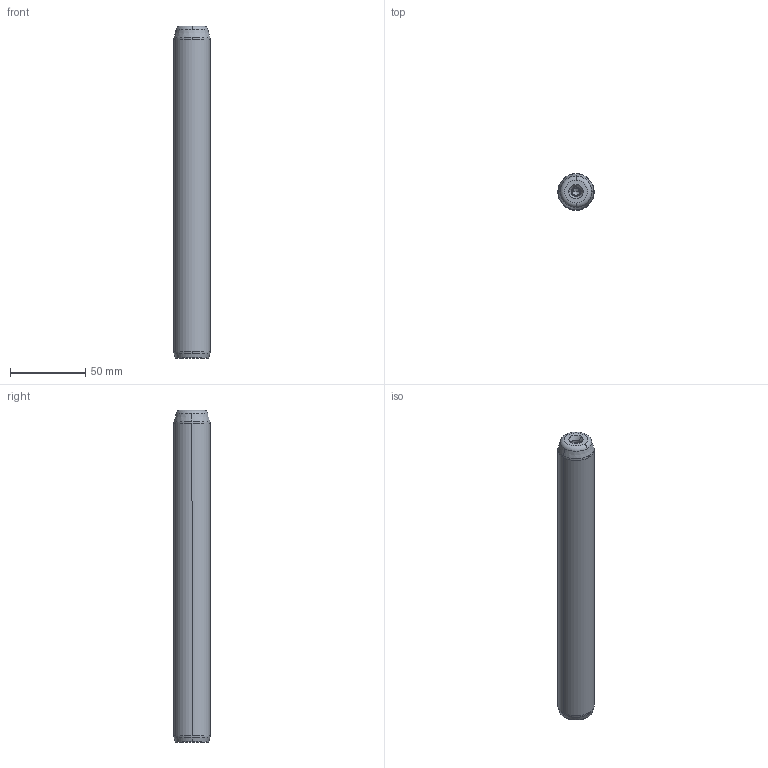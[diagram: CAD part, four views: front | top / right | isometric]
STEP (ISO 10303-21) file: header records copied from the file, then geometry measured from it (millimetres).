
FILE_DESCRIPTION((''),'2;1');
FILE_NAME('P10_024_220.stp','2008-12-23T14:36:13',(''),(''),'Mechanical Desktop 2009','Mechanical Desktop 2009',', , ');
FILE_SCHEMA(('CONFIG_CONTROL_DESIGN'));
Length unit declared in the file: millimetre
Products named in the file (5): Product; ProductAA; blmdl1; ProductA; blmdl1A
Assembly tree (2 placements, depth 3):
  Product
    ProductAA
      blmdl1
  ProductA
  blmdl1A
Bounding box: 24 x 24 x 220 mm (x, y, z)
Volume: 98192.4 mm3; surface area: 17524.4 mm2
Topology: 1 solids, 1 shells, 26 faces, 66 edges, 41 vertices
Faces by surface type: cone 10, torus 8, cylinder 6, plane 2
Entity records: 1012 total; most frequent: DIRECTION 170, CARTESIAN_POINT 134, ORIENTED_EDGE 128, AXIS2_PLACEMENT_3D 77, EDGE_CURVE 64, CIRCLE 48, VERTEX_POINT 41, EDGE_LOOP 27
